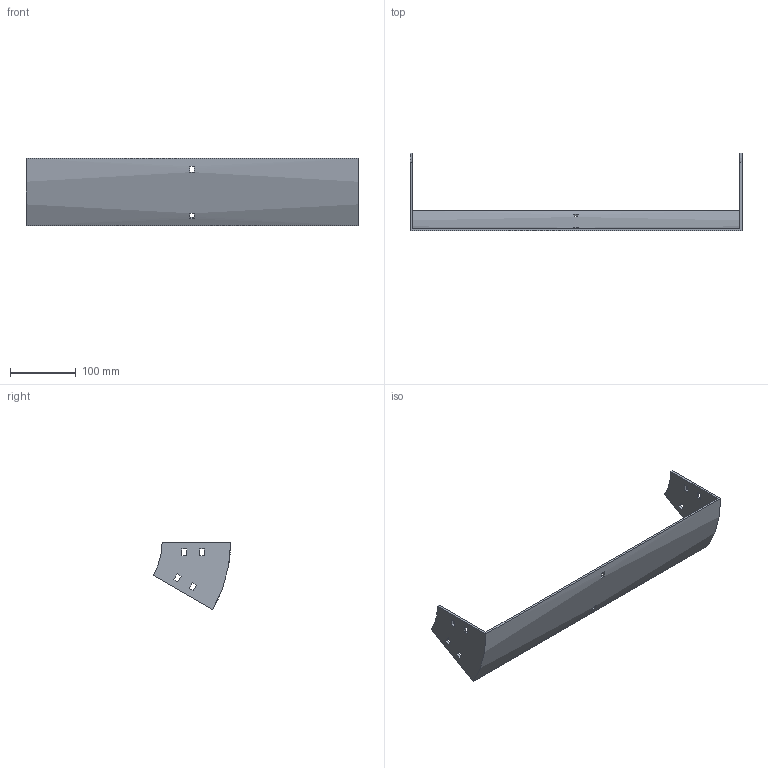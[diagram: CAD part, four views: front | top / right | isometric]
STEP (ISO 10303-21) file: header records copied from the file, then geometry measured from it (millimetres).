
FILE_DESCRIPTION (( 'STEP AP214' ), '1' );
FILE_NAME ('32B1D500.step', '2025-02-21T09:42:43', ( '' ), ( '' ), 'SwSTEP 2.0', 'SolidWorks 2023', '' );
FILE_SCHEMA (( 'AUTOMOTIVE_DESIGN' ));
Length unit declared in the file: millimetre
Products named in the file (1): 32B1D500
Bounding box: 504 x 117.4 x 102 mm (x, y, z)
Volume: 239777.8 mm3; surface area: 143493.6 mm2
Topology: 1 solids, 1 shells, 50 faces, 144 edges, 96 vertices
Faces by surface type: plane 46, cylinder 4
Entity records: 1687 total; most frequent: CARTESIAN_POINT 291, ORIENTED_EDGE 288, DIRECTION 262, EDGE_CURVE 144, VECTOR 128, LINE 128, VERTEX_POINT 96, EDGE_LOOP 70
